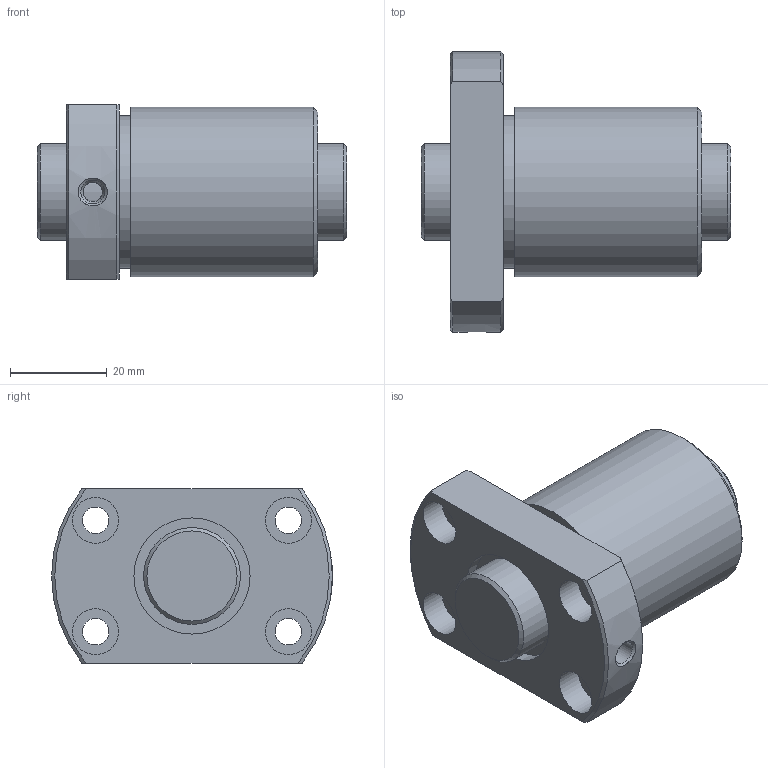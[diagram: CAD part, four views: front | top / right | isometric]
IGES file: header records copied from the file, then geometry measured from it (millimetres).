
Start section: Data from Parasolid IGES Translator 26.0.171, Copyright(c) 2006 Siemens PLM Software. All Rights Reserved.
Global section: file name: DK2006-3RRG1+64LC0_000.igs; native system: By Siemens PLM Incorporated; preprocessor: XPlus GENERIC/IGES 26.0.171; author: Noname; organization: Noname; date: 20250113.090852; units: millimetre
Bounding box: 64 x 58 x 36 mm (x, y, z)
Surface area: 18845.2 mm2 (no closed solid volume)
Topology: 0 solids, 0 shells, 41 faces, 166 edges, 133 vertices
Faces by surface type: revolution 27, extrusion 14
